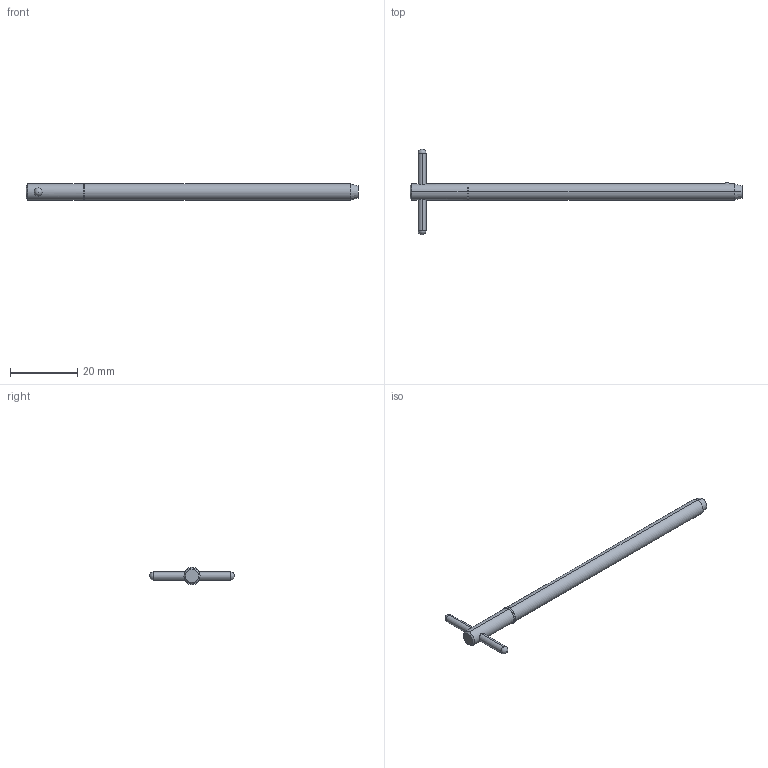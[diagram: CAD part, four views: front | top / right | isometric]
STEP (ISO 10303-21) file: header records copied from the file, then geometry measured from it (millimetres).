
FILE_DESCRIPTION (( 'STEP AP203' ), '1' );
FILE_NAME ('33018.W1830.step', '2024-11-19T17:07:21', ( '' ), ( '' ), 'SwSTEP 2.0', 'SolidWorks 2019', '' );
FILE_SCHEMA (( 'CONFIG_CONTROL_DESIGN' ));
Length unit declared in the file: millimetre
Products named in the file (3): Part1_33018.W1830; 33018.W1830; Part2_33018.W1830
Assembly tree (2 placements, depth 2):
  33018.W1830
    Part1_33018.W1830
    Part2_33018.W1830
Bounding box: 98.73 x 25.4 x 5.24 mm (x, y, z)
Volume: 1837.4 mm3; surface area: 1719.4 mm2
Topology: 2 solids, 2 shells, 22 faces, 47 edges, 30 vertices
Faces by surface type: cylinder 10, sphere 4, cone 4, plane 4
Entity records: 961 total; most frequent: CARTESIAN_POINT 204, DIRECTION 110, ORIENTED_EDGE 82, AXIS2_PLACEMENT_3D 48, EDGE_CURVE 41, EDGE_LOOP 27, VERTEX_POINT 26, PERSON_AND_ORGANIZATION 26
